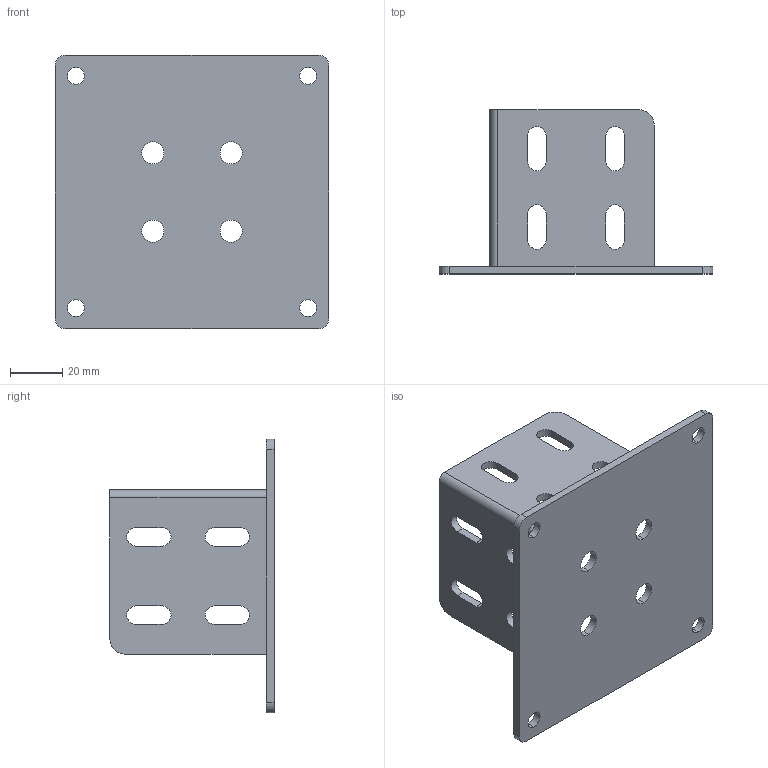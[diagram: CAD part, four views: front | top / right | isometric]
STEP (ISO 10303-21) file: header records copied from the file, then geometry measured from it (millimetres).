
FILE_DESCRIPTION (( 'STEP AP214' ), '1' );
FILE_NAME ('11303.STEP', '2024-08-05T14:06:29', ( 'Àëåêñåé' ), ( '' ), 'SwSTEP 2.0', 'SolidWorks 2022', '' );
FILE_SCHEMA (( 'AUTOMOTIVE_DESIGN' ));
Length unit declared in the file: millimetre
Products named in the file (1): 11303
Bounding box: 105 x 63 x 105 mm (x, y, z)
Volume: 51328.8 mm3; surface area: 38110.6 mm2
Topology: 2 solids, 2 shells, 69 faces, 195 edges, 130 vertices
Faces by surface type: cylinder 39, plane 30
Entity records: 2374 total; most frequent: DIRECTION 413, CARTESIAN_POINT 395, ORIENTED_EDGE 390, EDGE_CURVE 195, AXIS2_PLACEMENT_3D 148, VERTEX_POINT 130, VECTOR 117, LINE 117
